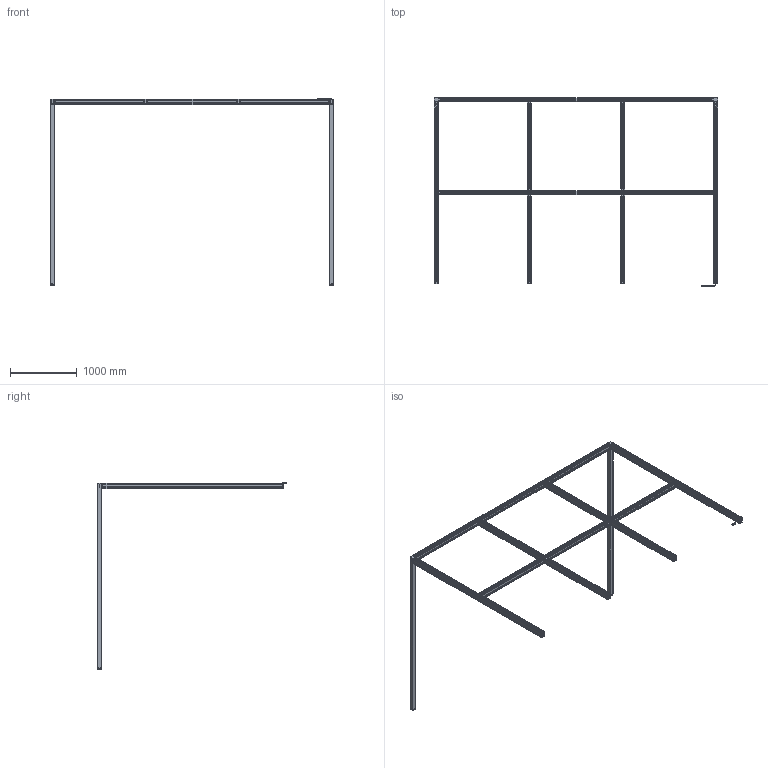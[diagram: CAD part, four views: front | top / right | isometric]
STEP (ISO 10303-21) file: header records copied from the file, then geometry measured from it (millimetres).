
FILE_DESCRIPTION (( 'STEP AP214' ), '1' );
FILE_NAME ('1001978.STEP', '2025-09-15T11:07:44', ( '' ), ( '' ), 'SwSTEP 2.0', 'SolidWorks 2025', '' );
FILE_SCHEMA (( 'AUTOMOTIVE_DESIGN' ));
Length unit declared in the file: millimetre
Products named in the file (1): 1001978
Bounding box: 4262.4 x 2841.88 x 2809 mm (x, y, z)
Volume: 57980572.7 mm3; surface area: 13961721.3 mm2
Topology: 56 solids, 56 shells, 4429 faces, 12355 edges, 8133 vertices
Faces by surface type: plane 2748, cylinder 1363, bspline 180, cone 54, torus 46, sphere 38
Entity records: 152808 total; most frequent: CARTESIAN_POINT 38378, ORIENTED_EDGE 24686, DIRECTION 22672, EDGE_CURVE 12343, VECTOR 9030, LINE 9030, VERTEX_POINT 8127, AXIS2_PLACEMENT_3D 6821
